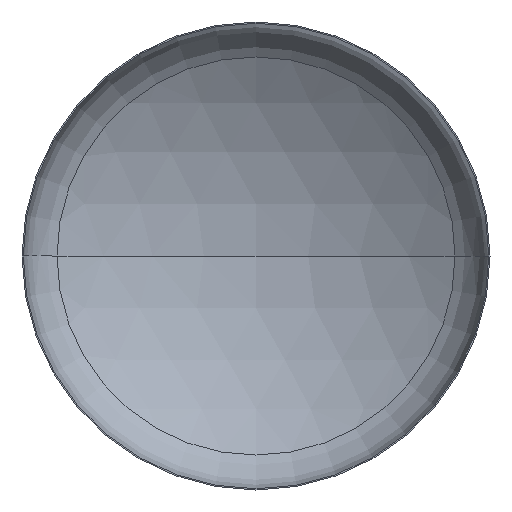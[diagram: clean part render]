
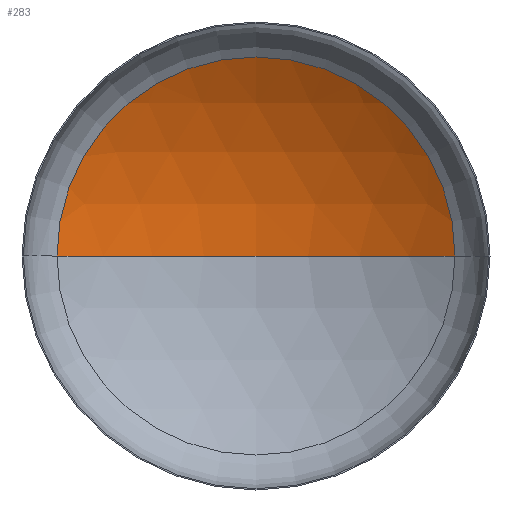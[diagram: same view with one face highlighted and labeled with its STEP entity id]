
A CAD part, front view. The second image highlights one B-rep face of the part: STEP entity #283.
In plain terms, the highlighted spherical face has radius 5200 mm.
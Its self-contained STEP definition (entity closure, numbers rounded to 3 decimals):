
#11 = VERTEX_POINT ( 'NONE', #200 ) ;
#19 = AXIS2_PLACEMENT_3D ( 'NONE', #215, #394, #266 ) ;
#34 = ORIENTED_EDGE ( 'NONE', *, *, #122, .F. ) ;
#36 = VERTEX_POINT ( 'NONE', #369 ) ;
#57 = AXIS2_PLACEMENT_3D ( 'NONE', #234, #189, #187 ) ;
#61 = AXIS2_PLACEMENT_3D ( 'NONE', #212, #207, #204 ) ;
#64 = AXIS2_PLACEMENT_3D ( 'NONE', #121, #131, #90 ) ;
#71 = CARTESIAN_POINT ( 'NONE',  ( -2764.667, 901.954, 0. ) ) ;
#90 = DIRECTION ( 'NONE',  ( 1., 0., 0. ) ) ;
#114 = EDGE_CURVE ( 'NONE', #11, #314, #348, .T. ) ;
#120 = EDGE_CURVE ( 'NONE', #36, #11, #290, .T. ) ;
#121 = CARTESIAN_POINT ( 'NONE',  ( 0., 901.954, 0. ) ) ;
#122 = EDGE_CURVE ( 'NONE', #36, #314, #229, .T. ) ;
#131 = DIRECTION ( 'NONE',  ( 0., -1., 0. ) ) ;
#165 = EDGE_LOOP ( 'NONE', ( #34, #206, #216 ) ) ;
#187 = DIRECTION ( 'NONE',  ( 1., 0., 0. ) ) ;
#189 = DIRECTION ( 'NONE',  ( 0., 0., 1. ) ) ;
#200 = CARTESIAN_POINT ( 'NONE',  ( 2764.667, 901.954, 0. ) ) ;
#204 = DIRECTION ( 'NONE',  ( -1., 0., 0. ) ) ;
#206 = ORIENTED_EDGE ( 'NONE', *, *, #120, .T. ) ;
#207 = DIRECTION ( 'NONE',  ( 0., 0., -1. ) ) ;
#208 = FACE_OUTER_BOUND ( 'NONE', #165, .T. ) ;
#212 = CARTESIAN_POINT ( 'NONE',  ( 0., -3502.206, 0. ) ) ;
#215 = CARTESIAN_POINT ( 'NONE',  ( 0., -3502.206, 0. ) ) ;
#216 = ORIENTED_EDGE ( 'NONE', *, *, #114, .T. ) ;
#229 = CIRCLE ( 'NONE', #57, 5200. ) ;
#234 = CARTESIAN_POINT ( 'NONE',  ( 0., -3502.206, 0. ) ) ;
#266 = DIRECTION ( 'NONE',  ( -1., 0., 0. ) ) ;
#283 = ADVANCED_FACE ( 'NONE', ( #208 ), #381, .F. ) ;
#290 = CIRCLE ( 'NONE', #61, 5200. ) ;
#314 = VERTEX_POINT ( 'NONE', #71 ) ;
#348 = CIRCLE ( 'NONE', #64, 2764.667 ) ;
#369 = CARTESIAN_POINT ( 'NONE',  ( 0., 1697.794, 0. ) ) ;
#381 = SPHERICAL_SURFACE ( 'NONE', #19, 5200. ) ;
#394 = DIRECTION ( 'NONE',  ( 0., 0., -1. ) ) ;
